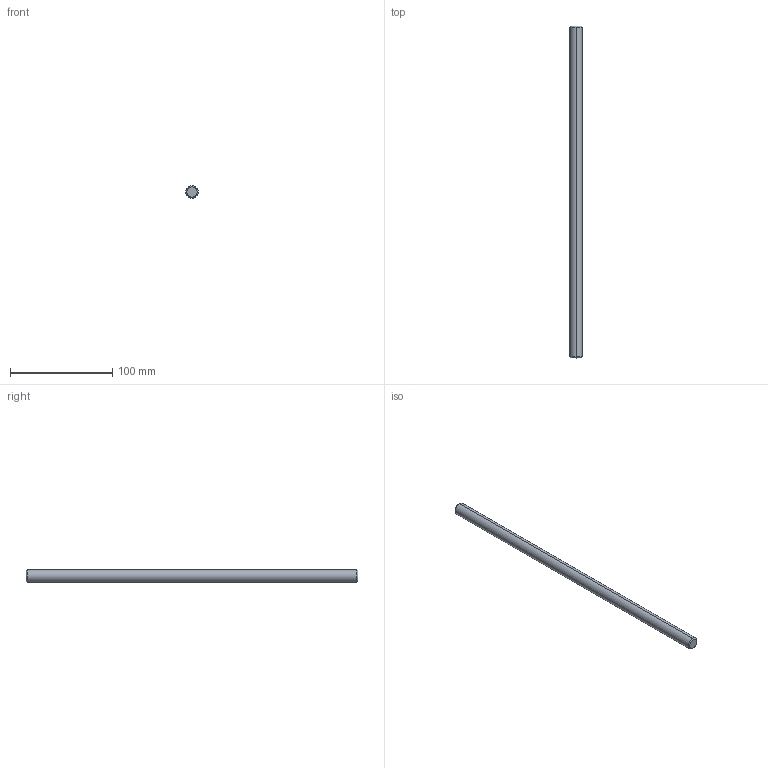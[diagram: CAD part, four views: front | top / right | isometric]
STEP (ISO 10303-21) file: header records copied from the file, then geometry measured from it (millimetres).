
FILE_DESCRIPTION (( 'STEP AP214' ), '1' );
FILE_NAME ('067RCB1BRS009.STEP', '2024-09-04T08:16:13', ( '' ), ( '' ), 'SwSTEP 2.0', 'SolidWorks 2023', '' );
FILE_SCHEMA (( 'AUTOMOTIVE_DESIGN' ));
Length unit declared in the file: millimetre
Products named in the file (1): 067RCB1BRS009
Bounding box: 12 x 325 x 12 mm (x, y, z)
Volume: 36721 mm3; surface area: 12431.6 mm2
Topology: 1 solids, 1 shells, 8 faces, 14 edges, 8 vertices
Faces by surface type: cone 4, plane 2, cylinder 2
Entity records: 217 total; most frequent: DIRECTION 40, CARTESIAN_POINT 31, ORIENTED_EDGE 28, AXIS2_PLACEMENT_3D 17, EDGE_CURVE 14, EDGE_LOOP 8, VERTEX_POINT 8, ADVANCED_FACE 8
